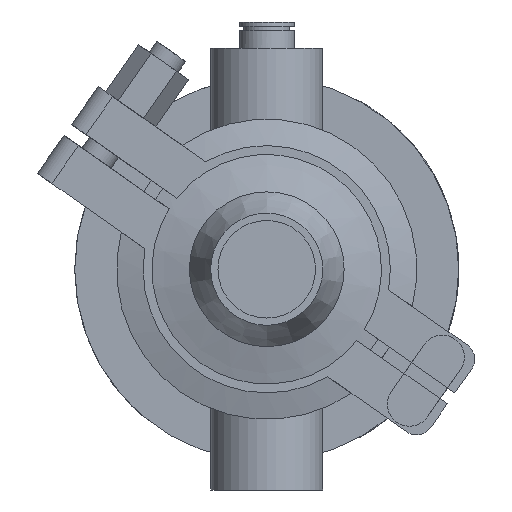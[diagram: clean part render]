
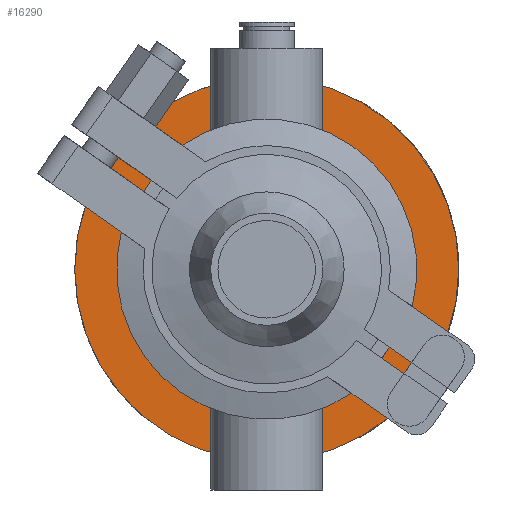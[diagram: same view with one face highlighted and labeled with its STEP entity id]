
A CAD part, front view. The second image highlights one B-rep face of the part: STEP entity #16290.
In plain terms, the highlighted planar face has unit normal (0, -1, 0).
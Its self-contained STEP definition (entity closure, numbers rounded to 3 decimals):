
#2199 = CIRCLE ( 'NONE', #5708, 43.5 ) ;
#2802 = CARTESIAN_POINT ( 'NONE',  ( 0., 15., 0. ) ) ;
#3748 = VERTEX_POINT ( 'NONE', #9839 ) ;
#3906 = PLANE ( 'NONE',  #12179 ) ;
#4299 = DIRECTION ( 'NONE',  ( 0., 1., 0. ) ) ;
#5708 = AXIS2_PLACEMENT_3D ( 'NONE', #2802, #4299, #8579 ) ;
#7283 = FACE_OUTER_BOUND ( 'NONE', #9104, .T. ) ;
#8579 = DIRECTION ( 'NONE',  ( -1., 0., 0. ) ) ;
#9104 = EDGE_LOOP ( 'NONE', ( #14284 ) ) ;
#9839 = CARTESIAN_POINT ( 'NONE',  ( -43.5, 15., 0. ) ) ;
#12179 = AXIS2_PLACEMENT_3D ( 'NONE', #19073, #15986, #16375 ) ;
#12436 = EDGE_CURVE ( 'NONE', #3748, #3748, #2199, .T. ) ;
#14284 = ORIENTED_EDGE ( 'NONE', *, *, #12436, .F. ) ;
#15986 = DIRECTION ( 'NONE',  ( 0., -1., 0. ) ) ;
#16290 = ADVANCED_FACE ( 'NONE', ( #7283 ), #3906, .T. ) ;
#16375 = DIRECTION ( 'NONE',  ( 1., 0., 0. ) ) ;
#19073 = CARTESIAN_POINT ( 'NONE',  ( 0., 15., 0. ) ) ;
